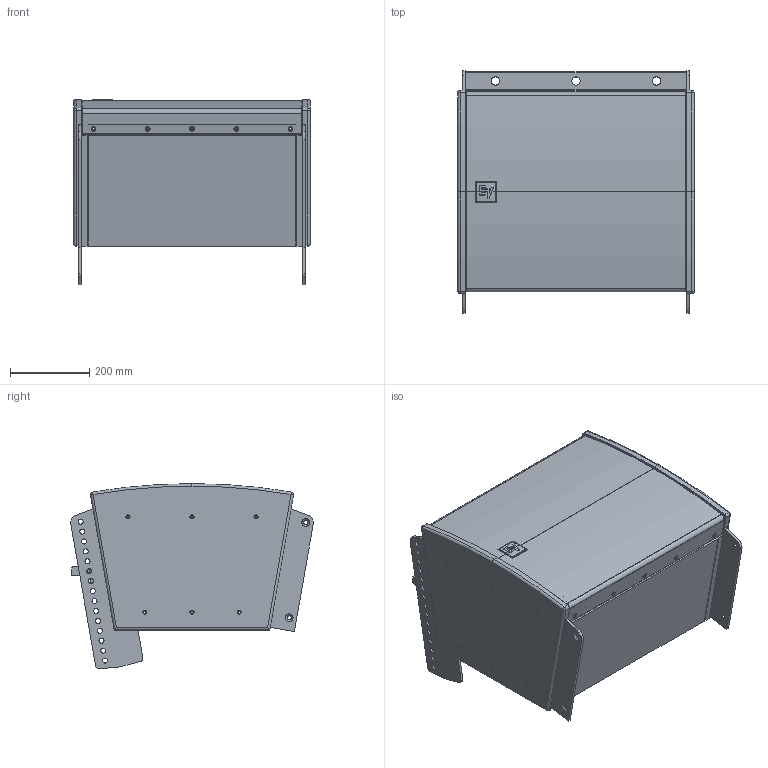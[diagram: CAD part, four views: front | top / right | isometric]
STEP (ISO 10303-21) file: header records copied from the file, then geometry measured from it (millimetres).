
FILE_DESCRIPTION (( 'STEP AP214' ), '1' );
FILE_NAME ('EVA-2082S-1220 Top Element With Grid.STEP', '2023-03-14T06:34:00', ( '' ), ( '' ), 'SwSTEP 2.0', 'SolidWorks 2021', '' );
FILE_SCHEMA (( 'AUTOMOTIVE_DESIGN' ));
Length unit declared in the file: millimetre
Products named in the file (14): EVA-2082S-1220 Extended Grid; EVA-2082S-1220 Top And Bottom Plate; EVA-2082S-1220 Rear Panel; EVA-2082S-1220 Spreader Bar; EVA-2082S-1220 Back Plate; EVA-2082S-1220 Side Plate; EVA-2082S-1220 Grille; EVA-2082S-1220 Cover Plate; EVA-2082S-1220 Enclosure Assembly; EVA-2082S-1220 EVA Grid Right Side; EVA-2082S-1220 Top Element With Grid; EVA-2082S-1220 EVA Grid Left Side; EVA-2082S-1220 EV Logo
Assembly tree (16 placements, depth 3):
  EVA-2082S-1220 Top Element With Grid
    EVA-2082S-1220 Enclosure Assembly
      EVA-2082S-1220 Side Plate
      EVA-2082S-1220 Side Plate
      EVA-2082S-1220 Back Plate
      EVA-2082S-1220 Top And Bottom Plate  x2
    EVA-2082S-1220 Grille
    EVA-2082S-1220 EV Logo
    EVA-2082S-1220 Rear Panel
    EVA-2082S-1220 EVA Grid Right Side
    EVA-2082S-1220 EVA Grid Left Side
    EVA-2082S-1220 Extended Grid  x2
    EVA-2082S-1220 Cover Plate  x2
    EVA-2082S-1220 Spreader Bar
Bounding box: 596.9 x 612.43 x 467.61 mm (x, y, z)
Volume: 23027067.8 mm3; surface area: 3920909.1 mm2
Topology: 15 solids, 15 shells, 976 faces, 2529 edges, 1605 vertices
Faces by surface type: cylinder 361, plane 318, bspline 133, cone 120, torus 44
Entity records: 31379 total; most frequent: CARTESIAN_POINT 9756, ORIENTED_EDGE 4436, DIRECTION 4261, EDGE_CURVE 2218, AXIS2_PLACEMENT_3D 1599, VERTEX_POINT 1414, EDGE_LOOP 1092, LINE 1063
